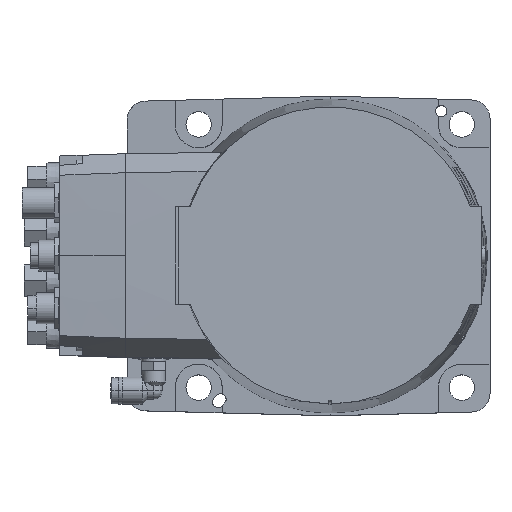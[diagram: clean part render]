
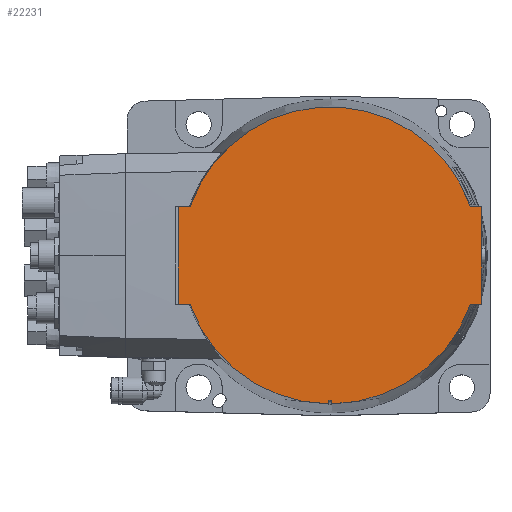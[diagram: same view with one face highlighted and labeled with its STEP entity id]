
A CAD part, top view. The second image highlights one B-rep face of the part: STEP entity #22231.
In plain terms, the highlighted planar face has unit normal (0, 0, 1).
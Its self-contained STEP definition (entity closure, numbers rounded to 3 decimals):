
#68 = CIRCLE ( 'NONE', #22870, 78.988 ) ;
#237 = AXIS2_PLACEMENT_3D ( 'NONE', #4750, #30621, #15140 ) ;
#395 = VECTOR ( 'NONE', #27667, 1000. ) ;
#426 = CIRCLE ( 'NONE', #237, 78.988 ) ;
#477 = ORIENTED_EDGE ( 'NONE', *, *, #22958, .F. ) ;
#1254 = ORIENTED_EDGE ( 'NONE', *, *, #13065, .F. ) ;
#2669 = VERTEX_POINT ( 'NONE', #19794 ) ;
#2766 = CARTESIAN_POINT ( 'NONE',  ( -74.544, 26.121, 191.4 ) ) ;
#3527 = AXIS2_PLACEMENT_3D ( 'NONE', #32850, #27882, #12415 ) ;
#3960 = ORIENTED_EDGE ( 'NONE', *, *, #9193, .F. ) ;
#4194 = ORIENTED_EDGE ( 'NONE', *, *, #30496, .F. ) ;
#4257 = CARTESIAN_POINT ( 'NONE',  ( -81., 0., 191.4 ) ) ;
#4402 = ORIENTED_EDGE ( 'NONE', *, *, #8267, .T. ) ;
#4750 = CARTESIAN_POINT ( 'NONE',  ( 0., 0., 191.4 ) ) ;
#5523 = LINE ( 'NONE', #20023, #16010 ) ;
#5539 = EDGE_CURVE ( 'NONE', #2669, #28619, #24758, .T. ) ;
#5572 = EDGE_CURVE ( 'NONE', #22153, #24859, #32848, .T. ) ;
#5584 = DIRECTION ( 'NONE',  ( 0., 1., 0. ) ) ;
#6019 = ORIENTED_EDGE ( 'NONE', *, *, #27380, .F. ) ;
#6043 = ORIENTED_EDGE ( 'NONE', *, *, #21740, .T. ) ;
#6274 = LINE ( 'NONE', #13485, #10336 ) ;
#6894 = PLANE ( 'NONE',  #3527 ) ;
#6913 = CARTESIAN_POINT ( 'NONE',  ( -81.5, 26., 191.4 ) ) ;
#6984 = CARTESIAN_POINT ( 'NONE',  ( 80.5, 0., 191.4 ) ) ;
#7262 = VERTEX_POINT ( 'NONE', #23969 ) ;
#7443 = DIRECTION ( 'NONE',  ( 1., 0., 0. ) ) ;
#7614 = EDGE_CURVE ( 'NONE', #14936, #16732, #426, .T. ) ;
#8267 = EDGE_CURVE ( 'NONE', #10641, #28619, #18591, .T. ) ;
#9193 = EDGE_CURVE ( 'NONE', #7262, #23623, #33487, .T. ) ;
#10336 = VECTOR ( 'NONE', #13044, 1000. ) ;
#10641 = VERTEX_POINT ( 'NONE', #2766 ) ;
#10949 = CARTESIAN_POINT ( 'NONE',  ( 0., 0., 191.4 ) ) ;
#11288 = DIRECTION ( 'NONE',  ( 0., 0., -1. ) ) ;
#12415 = DIRECTION ( 'NONE',  ( 1., 0., 0. ) ) ;
#12864 = CARTESIAN_POINT ( 'NONE',  ( -0.75, -77., 191.4 ) ) ;
#12922 = ORIENTED_EDGE ( 'NONE', *, *, #7614, .F. ) ;
#13044 = DIRECTION ( 'NONE',  ( 1., 0., 0. ) ) ;
#13065 = EDGE_CURVE ( 'NONE', #21535, #18734, #5523, .T. ) ;
#13264 = CARTESIAN_POINT ( 'NONE',  ( -0.75, 0., 191.4 ) ) ;
#13485 = CARTESIAN_POINT ( 'NONE',  ( 0., -77., 191.4 ) ) ;
#13764 = CARTESIAN_POINT ( 'NONE',  ( -74.544, -26.121, 191.4 ) ) ;
#14134 = DIRECTION ( 'NONE',  ( 1., -0.017, 0. ) ) ;
#14426 = DIRECTION ( 'NONE',  ( 1., 0.017, 0. ) ) ;
#14936 = VERTEX_POINT ( 'NONE', #20975 ) ;
#15140 = DIRECTION ( 'NONE',  ( 1., 0., 0. ) ) ;
#15787 = LINE ( 'NONE', #13264, #19830 ) ;
#16010 = VECTOR ( 'NONE', #17876, 1000. ) ;
#16098 = ORIENTED_EDGE ( 'NONE', *, *, #5539, .F. ) ;
#16732 = VERTEX_POINT ( 'NONE', #13764 ) ;
#17033 = DIRECTION ( 'NONE',  ( 0., 1., 0. ) ) ;
#17133 = EDGE_LOOP ( 'NONE', ( #1254, #6019, #26278, #4194, #3960, #26187, #4402, #16098, #477, #12922, #6043, #25852 ) ) ;
#17876 = DIRECTION ( 'NONE',  ( 0., 1., 0. ) ) ;
#17919 = DIRECTION ( 'NONE',  ( 0., 0., -1. ) ) ;
#17927 = AXIS2_PLACEMENT_3D ( 'NONE', #10949, #11288, #18706 ) ;
#18176 = FACE_OUTER_BOUND ( 'NONE', #17133, .T. ) ;
#18591 = LINE ( 'NONE', #6913, #395 ) ;
#18706 = DIRECTION ( 'NONE',  ( 1., 0., 0. ) ) ;
#18734 = VERTEX_POINT ( 'NONE', #20892 ) ;
#19732 = CARTESIAN_POINT ( 'NONE',  ( 0.479, -27.414, 191.4 ) ) ;
#19794 = CARTESIAN_POINT ( 'NONE',  ( -81., -26.009, 191.4 ) ) ;
#19830 = VECTOR ( 'NONE', #5584, 1000. ) ;
#20023 = CARTESIAN_POINT ( 'NONE',  ( 0.75, 0., 191.4 ) ) ;
#20218 = LINE ( 'NONE', #6984, #23449 ) ;
#20295 = CARTESIAN_POINT ( 'NONE',  ( 0., 0., 191.4 ) ) ;
#20756 = CARTESIAN_POINT ( 'NONE',  ( 80.5, 26.017, 191.4 ) ) ;
#20892 = CARTESIAN_POINT ( 'NONE',  ( 0.75, -77., 191.4 ) ) ;
#20975 = CARTESIAN_POINT ( 'NONE',  ( -0.75, -78.984, 191.4 ) ) ;
#21535 = VERTEX_POINT ( 'NONE', #32107 ) ;
#21740 = EDGE_CURVE ( 'NONE', #14936, #23507, #15787, .T. ) ;
#22153 = VERTEX_POINT ( 'NONE', #27432 ) ;
#22231 = ADVANCED_FACE ( 'NONE', ( #18176 ), #6894, .F. ) ;
#22870 = AXIS2_PLACEMENT_3D ( 'NONE', #20295, #17919, #7443 ) ;
#22958 = EDGE_CURVE ( 'NONE', #16732, #2669, #26619, .T. ) ;
#23414 = CARTESIAN_POINT ( 'NONE',  ( -81., 26.009, 191.4 ) ) ;
#23449 = VECTOR ( 'NONE', #31009, 1000. ) ;
#23507 = VERTEX_POINT ( 'NONE', #12864 ) ;
#23623 = VERTEX_POINT ( 'NONE', #20756 ) ;
#23969 = CARTESIAN_POINT ( 'NONE',  ( 74.544, 26.121, 191.4 ) ) ;
#24758 = LINE ( 'NONE', #4257, #31611 ) ;
#24859 = VERTEX_POINT ( 'NONE', #31107 ) ;
#25542 = CIRCLE ( 'NONE', #17927, 78.988 ) ;
#25683 = EDGE_CURVE ( 'NONE', #23507, #18734, #6274, .T. ) ;
#25852 = ORIENTED_EDGE ( 'NONE', *, *, #25683, .T. ) ;
#26005 = VECTOR ( 'NONE', #14426, 1000. ) ;
#26187 = ORIENTED_EDGE ( 'NONE', *, *, #29725, .F. ) ;
#26278 = ORIENTED_EDGE ( 'NONE', *, *, #5572, .T. ) ;
#26619 = LINE ( 'NONE', #30267, #31454 ) ;
#27380 = EDGE_CURVE ( 'NONE', #22153, #21535, #68, .T. ) ;
#27432 = CARTESIAN_POINT ( 'NONE',  ( 74.544, -26.121, 191.4 ) ) ;
#27667 = DIRECTION ( 'NONE',  ( -1., -0.017, 0. ) ) ;
#27882 = DIRECTION ( 'NONE',  ( 0., 0., -1. ) ) ;
#28619 = VERTEX_POINT ( 'NONE', #23414 ) ;
#29620 = CARTESIAN_POINT ( 'NONE',  ( 81.5, 26., 191.4 ) ) ;
#29725 = EDGE_CURVE ( 'NONE', #10641, #7262, #25542, .T. ) ;
#30267 = CARTESIAN_POINT ( 'NONE',  ( -0.479, -27.414, 191.4 ) ) ;
#30496 = EDGE_CURVE ( 'NONE', #23623, #24859, #20218, .T. ) ;
#30621 = DIRECTION ( 'NONE',  ( 0., 0., -1. ) ) ;
#31009 = DIRECTION ( 'NONE',  ( 0., -1., 0. ) ) ;
#31107 = CARTESIAN_POINT ( 'NONE',  ( 80.5, -26.017, 191.4 ) ) ;
#31454 = VECTOR ( 'NONE', #33170, 1000. ) ;
#31489 = VECTOR ( 'NONE', #14134, 1000. ) ;
#31611 = VECTOR ( 'NONE', #17033, 1000. ) ;
#32107 = CARTESIAN_POINT ( 'NONE',  ( 0.75, -78.984, 191.4 ) ) ;
#32848 = LINE ( 'NONE', #19732, #26005 ) ;
#32850 = CARTESIAN_POINT ( 'NONE',  ( 0., 0., 191.4 ) ) ;
#33170 = DIRECTION ( 'NONE',  ( -1., 0.017, 0. ) ) ;
#33487 = LINE ( 'NONE', #29620, #31489 ) ;
